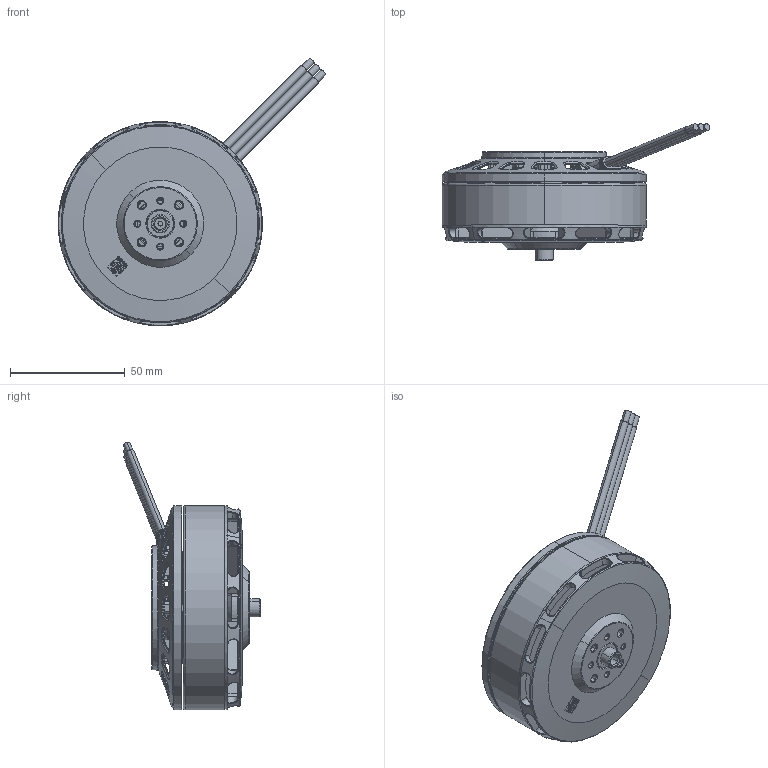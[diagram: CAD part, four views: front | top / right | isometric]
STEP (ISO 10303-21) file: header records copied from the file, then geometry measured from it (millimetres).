
FILE_DESCRIPTION (( 'STEP AP203' ), '1' );
FILE_NAME ('HV-8014-萇儂3D-勤俋-230713.STEP', '2023-07-13T02:53:00', ( '' ), ( '' ), 'SwSTEP 2.0', 'SolidWorks 2021', '' );
FILE_SCHEMA (( 'CONFIG_CONTROL_DESIGN' ));
Length unit declared in the file: millimetre
Products named in the file (1): HV-8014-萇儂3D-勤俋-230713
Bounding box: 116.8 x 59.61 x 116.8 mm (x, y, z)
Volume: 120706 mm3; surface area: 67819.9 mm2
Topology: 13 solids, 18 shells, 2795 faces, 7412 edges, 4684 vertices
Faces by surface type: plane 1031, cylinder 881, bspline 481, cone 375, torus 27
Entity records: 140901 total; most frequent: CARTESIAN_POINT 75082, ORIENTED_EDGE 14748, DIRECTION 12368, EDGE_CURVE 7374, VERTEX_POINT 4684, AXIS2_PLACEMENT_3D 4458, VECTOR 3452, LINE 3452
